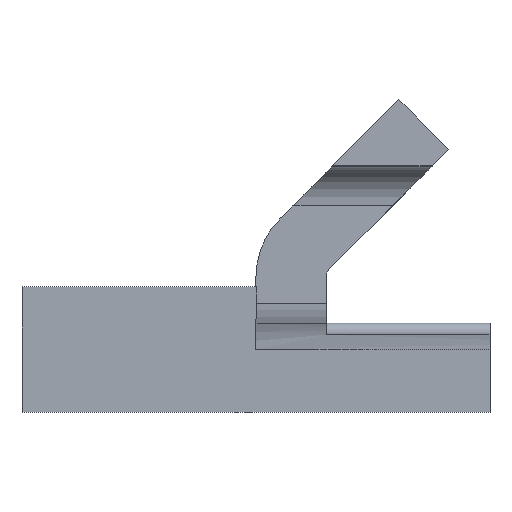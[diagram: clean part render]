
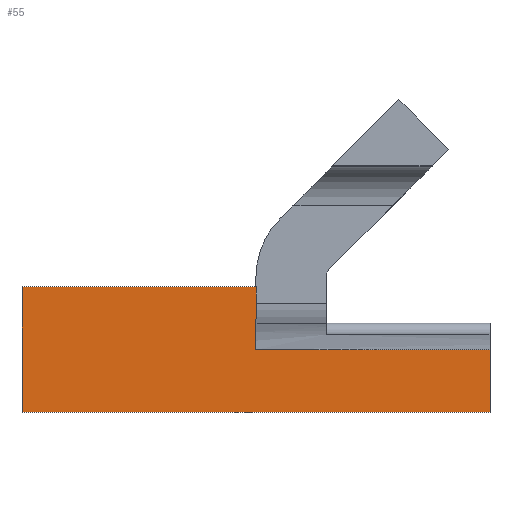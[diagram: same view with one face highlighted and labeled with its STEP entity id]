
A CAD part, top view. The second image highlights one B-rep face of the part: STEP entity #55.
In plain terms, the highlighted planar face has unit normal (0, 0, 1).
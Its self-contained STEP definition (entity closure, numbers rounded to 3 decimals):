
#55=ADVANCED_FACE('',(#92),#94,.T.);
#92=FACE_BOUND('',#93,.T.);
#93=EDGE_LOOP('',(#264,#265,#266,#267,#268,#269));
#94=PLANE('',#95);
#95=AXIS2_PLACEMENT_3D('',#96,#97,#98);
#96=CARTESIAN_POINT('',(-10.6,6.04,-6.18));
#97=DIRECTION('',(0.,0.,1.));
#98=DIRECTION('',(0.,-1.,0.));
#264=ORIENTED_EDGE('',*,*,#398,.T.);
#265=ORIENTED_EDGE('',*,*,#388,.T.);
#266=ORIENTED_EDGE('',*,*,#399,.F.);
#267=ORIENTED_EDGE('',*,*,#400,.T.);
#268=ORIENTED_EDGE('',*,*,#401,.T.);
#269=ORIENTED_EDGE('',*,*,#402,.F.);
#388=EDGE_CURVE('',#457,#454,#458,.F.);
#398=EDGE_CURVE('',#475,#457,#476,.F.);
#399=EDGE_CURVE('',#477,#454,#478,.T.);
#400=EDGE_CURVE('',#477,#479,#480,.T.);
#401=EDGE_CURVE('',#479,#481,#482,.T.);
#402=EDGE_CURVE('',#475,#481,#483,.T.);
#454=VERTEX_POINT('',#565);
#457=VERTEX_POINT('',#570);
#458=LINE('',#571,#572);
#475=VERTEX_POINT('',#612);
#476=LINE('',#613,#614);
#477=VERTEX_POINT('',#616);
#478=LINE('',#617,#618);
#479=VERTEX_POINT('',#620);
#480=LINE('',#621,#622);
#481=VERTEX_POINT('',#624);
#482=LINE('',#625,#626);
#483=LINE('',#628,#629);
#565=CARTESIAN_POINT('',(-0.6,6.04,-6.18));
#570=CARTESIAN_POINT('',(-0.6,3.365,-6.18));
#571=CARTESIAN_POINT('',(-0.6,6.04,-6.18));
#572=VECTOR('',#573,1.);
#573=DIRECTION('',(0.,-1.,0.));
#612=CARTESIAN_POINT('',(9.4,3.365,-6.18));
#613=CARTESIAN_POINT('',(-0.6,3.365,-6.18));
#614=VECTOR('',#615,1.);
#615=DIRECTION('',(1.,0.,0.));
#616=CARTESIAN_POINT('',(-10.6,6.04,-6.18));
#617=CARTESIAN_POINT('',(-10.6,6.04,-6.18));
#618=VECTOR('',#619,1.);
#619=DIRECTION('',(1.,0.,0.));
#620=CARTESIAN_POINT('',(-10.6,0.69,-6.18));
#621=CARTESIAN_POINT('',(-10.6,6.04,-6.18));
#622=VECTOR('',#623,1.);
#623=DIRECTION('',(0.,-1.,0.));
#624=CARTESIAN_POINT('',(9.4,0.69,-6.18));
#625=CARTESIAN_POINT('',(-10.6,0.69,-6.18));
#626=VECTOR('',#627,1.);
#627=DIRECTION('',(1.,0.,0.));
#628=CARTESIAN_POINT('',(9.4,3.365,-6.18));
#629=VECTOR('',#630,1.);
#630=DIRECTION('',(0.,-1.,0.));
